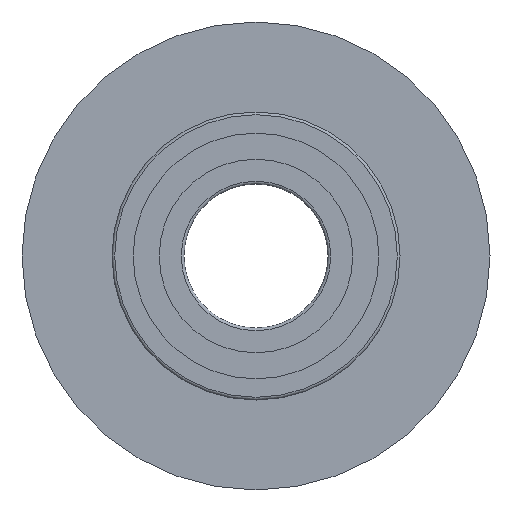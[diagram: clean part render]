
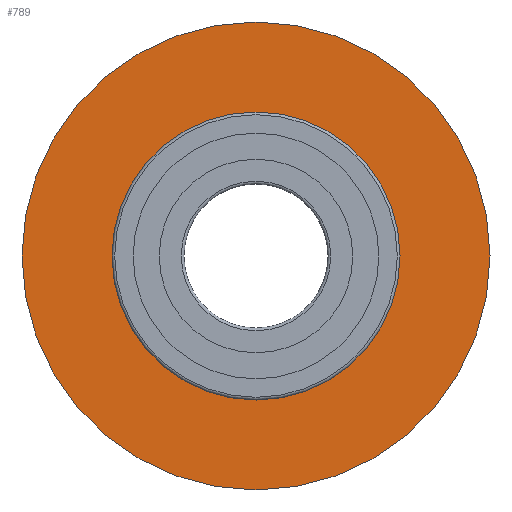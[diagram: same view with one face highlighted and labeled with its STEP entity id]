
A CAD part, left-side view. The second image highlights one B-rep face of the part: STEP entity #789.
In plain terms, the highlighted planar face has unit normal (-1, 0, 0).
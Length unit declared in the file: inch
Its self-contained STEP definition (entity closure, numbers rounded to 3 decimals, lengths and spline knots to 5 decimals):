
#762=CARTESIAN_POINT('',(112.91139,125.47152,0.));
#763=VERTEX_POINT('',#762);
#764=CARTESIAN_POINT('',(112.91139,112.47152,0.));
#765=DIRECTION('',(1.,0.,0.));
#766=DIRECTION('',(0.,1.,0.));
#767=AXIS2_PLACEMENT_3D('',#764,#765,#766);
#768=CIRCLE('',#767,13.);
#769=EDGE_CURVE('',#763,#763,#768,.T.);
#770=ORIENTED_EDGE('',*,*,#769,.F.);
#771=EDGE_LOOP('',(#770));
#772=FACE_OUTER_BOUND('',#771,.T.);
#773=CARTESIAN_POINT('',(112.91139,120.47152,0.));
#774=VERTEX_POINT('',#773);
#775=CARTESIAN_POINT('',(112.91139,112.47152,0.));
#776=DIRECTION('',(1.,0.,0.));
#777=DIRECTION('',(0.,1.,0.));
#778=AXIS2_PLACEMENT_3D('',#775,#776,#777);
#779=CIRCLE('',#778,8.);
#780=EDGE_CURVE('',#774,#774,#779,.T.);
#781=ORIENTED_EDGE('',*,*,#780,.T.);
#782=EDGE_LOOP('',(#781));
#783=FACE_BOUND('',#782,.T.);
#784=CARTESIAN_POINT('',(112.91139,122.97152,0.));
#785=DIRECTION('',(-1.,0.,0.));
#786=DIRECTION('',(0.,-1.,0.));
#787=AXIS2_PLACEMENT_3D('',#784,#785,#786);
#788=PLANE('',#787);
#789=ADVANCED_FACE('',(#772,#783),#788,.T.);
